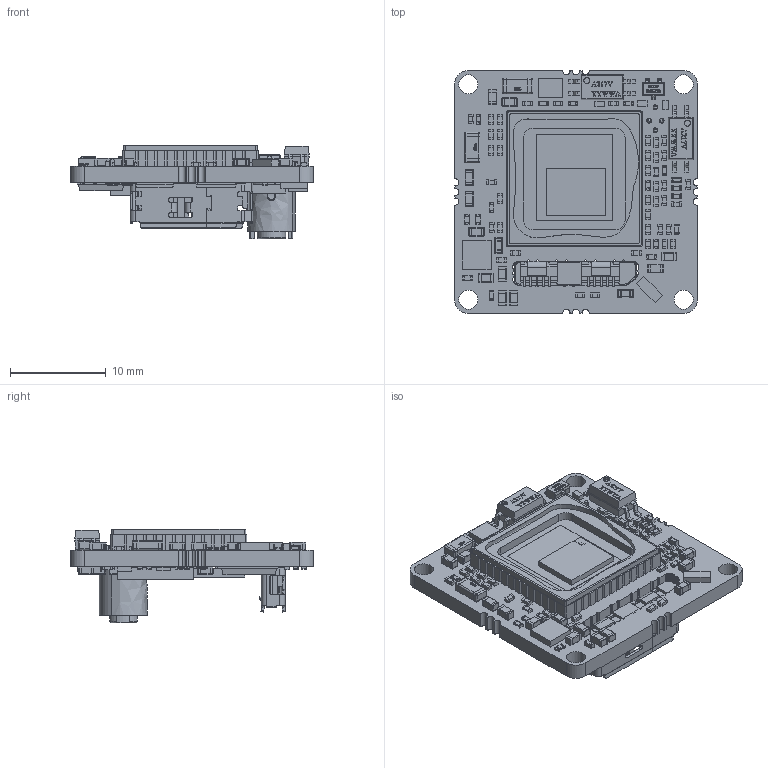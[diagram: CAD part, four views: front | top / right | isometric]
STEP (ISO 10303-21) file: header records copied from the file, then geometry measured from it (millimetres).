
FILE_DESCRIPTION(('Open CASCADE Model'),'2;1');
FILE_NAME('Open CASCADE Shape Model','2016-09-12T14:43:40',('Author'),( 'Open CASCADE'),'Open CASCADE STEP processor 6.8','Open CASCADE 6.8' ,'Unknown');
FILE_SCHEMA(('AUTOMOTIVE_DESIGN { 1 0 10303 214 1 1 1 1 }'));
Length unit declared in the file: millimetre
Products named in the file (219): PCB; Board; D5; 107521592; Extruded; C7; ChipCap(0402); C5; C2; T2; 107522408; R25; ChipRes(0402); R14; U13; 107521864; R45; C10; U17; 915687848; R44; R43; R42; R31; R30; R27; R17; L18; 0603_L; L17; 0402_L; L16; L15; L14; L12; F1; ChipRes(0603); D6; 1027263880; C94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
Assembly tree (352 placements, depth 5):
  PCB
    Board
    D5
      107521592
        Extruded
    C7
      ChipCap(0402)
    C5
      ChipCap(0402)
    C2
      ChipCap(0402)
    T2
      107522408
        Extruded
    R25
      ChipRes(0402)
    R14
      ChipRes(0402)
    U13
      107521864
        Extruded
    R45
      ChipRes(0402)
    C10
      ChipCap(0402)
    U17
      915687848
        Extruded
    R44
      ChipRes(0402)
    R43
      ChipRes(0402)
    R42
      ChipRes(0402)
    R31
      ChipRes(0402)
    R30
      ChipRes(0402)
    R27
      ChipRes(0402)
    R17
      ChipRes(0402)
    L18
      0603_L
    L17
      0402_L
    L16
      0402_L
    L15
      0402_L
    L14
      0402_L
    L12
      0402_L
    F1
      ChipRes(0603)
    D6
      1027263880
        Extruded
    C94
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Bounding box: 25.4 x 25.4 x 9.81 mm (x, y, z)
Volume: 1598.5 mm3; surface area: 4591.1 mm2
Topology: 206 solids, 2174 shells, 8235 faces, 26268 edges, 20173 vertices
Faces by surface type: plane 5687, cylinder 1368, bspline 744, sphere 428, torus 4, cone 2, extrusion 2
Full cylindrical faces by diameter (mm): 0.5 x4, 2 x4
Entity records: 454431 total; most frequent: CARTESIAN_POINT 210498, DIRECTION 34240, VECTOR 24157, LINE 24155, ORIENTED_EDGE 19647, PCURVE 19647, DEFINITIONAL_REPRESENTATION 19647, EDGE_CURVE 15101
